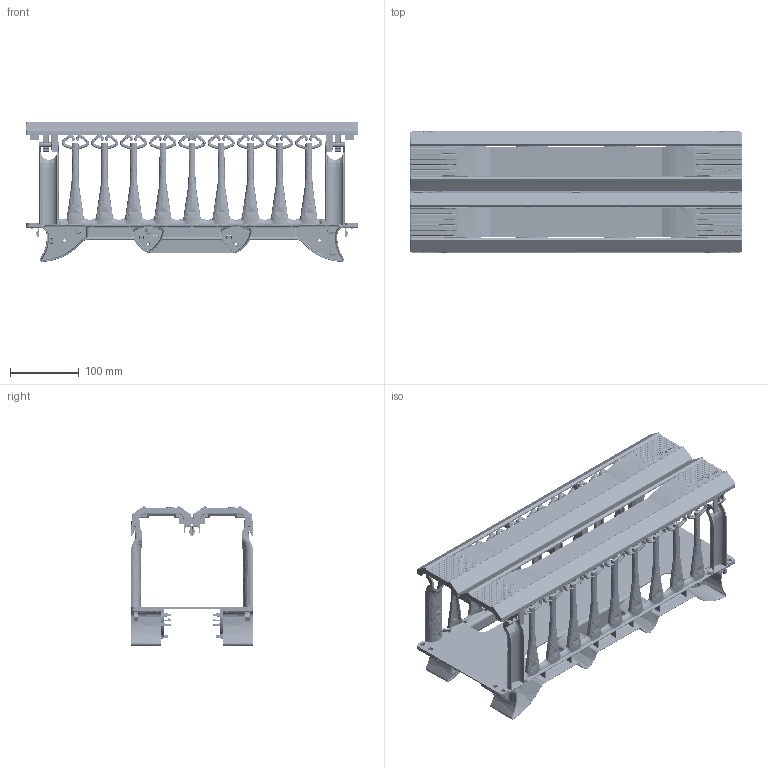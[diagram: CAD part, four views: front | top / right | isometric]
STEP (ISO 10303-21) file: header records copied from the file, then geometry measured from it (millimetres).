
FILE_DESCRIPTION (( 'STEP AP203' ), '1' );
FILE_NAME ('dchs4.STEP', '2012-10-24T18:17:11', ( 'User' ), ( 'Pentair Inc' ), 'SwSTEP 2.0', 'SolidWorks 2010', '' );
FILE_SCHEMA (( 'CONFIG_CONTROL_DESIGN' ));
Products named in the file (6): dchs4; 87927018_87927018_cable manager, horz;2u sngl side; 89091118; 89091464; 87927022_Hoffman Logo; 89091465
Assembly tree (9 placements, depth 3):
  dchs4
    87927018_87927018_cable manager, horz;2u sngl side  x2
    89091118
    89091464
      87927022_Hoffman Logo  x2
      89091465  x3
Bounding box: 482.6 x 177.35 x 203.78 mm (x, y, z)
Volume: 844028.5 mm3; surface area: 753194.6 mm2
Topology: 24 solids, 24 shells, 10154 faces, 26402 edges, 16142 vertices
Faces by surface type: bspline 3188, cylinder 3016, plane 2536, torus 788, sphere 316, cone 310
Entity records: 334704 total; most frequent: CARTESIAN_POINT 223953, ORIENTED_EDGE 26272, DIRECTION 18610, EDGE_CURVE 13136, VERTEX_POINT 8129, AXIS2_PLACEMENT_3D 6807, EDGE_LOOP 5285, FACE_OUTER_BOUND 5114
